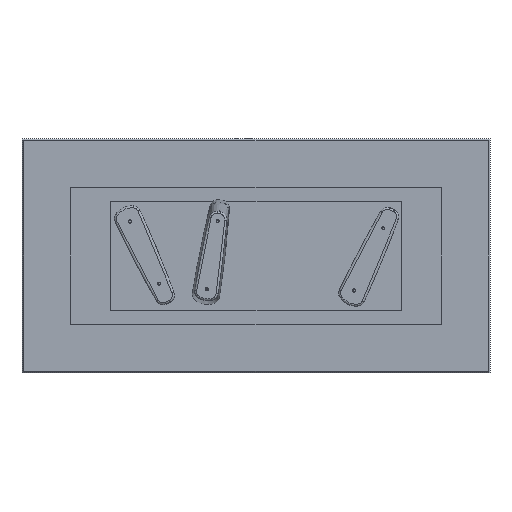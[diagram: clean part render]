
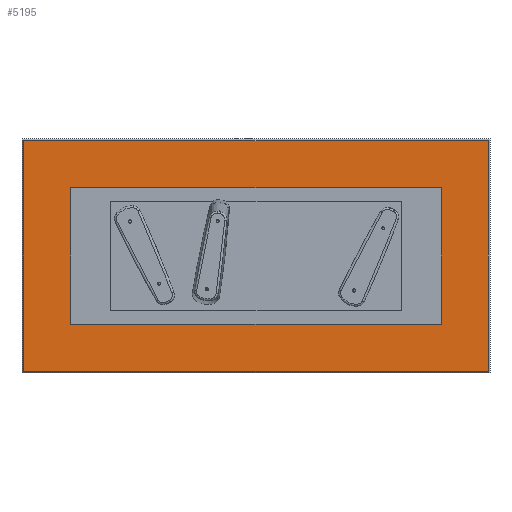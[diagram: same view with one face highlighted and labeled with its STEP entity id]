
A CAD part, front view. The second image highlights one B-rep face of the part: STEP entity #5195.
In plain terms, the highlighted planar face has unit normal (0, -1, 0).
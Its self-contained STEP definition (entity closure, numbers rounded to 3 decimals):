
#31 = LINE ( 'NONE', #6059, #4245 ) ;
#76 = AXIS2_PLACEMENT_3D ( 'NONE', #6013, #4880, #851 ) ;
#261 = ORIENTED_EDGE ( 'NONE', *, *, #4907, .T. ) ;
#393 = EDGE_CURVE ( 'NONE', #4084, #2100, #31, .T. ) ;
#402 = VECTOR ( 'NONE', #5516, 1000. ) ;
#460 = ORIENTED_EDGE ( 'NONE', *, *, #393, .T. ) ;
#560 = LINE ( 'NONE', #2665, #4924 ) ;
#851 = DIRECTION ( 'NONE',  ( 0., 0., -1. ) ) ;
#1207 = CARTESIAN_POINT ( 'NONE',  ( 1190., 65., -590. ) ) ;
#1236 = VECTOR ( 'NONE', #3526, 1000. ) ;
#1337 = CARTESIAN_POINT ( 'NONE',  ( -1200., 65., 590. ) ) ;
#1403 = PLANE ( 'NONE',  #76 ) ;
#1695 = CARTESIAN_POINT ( 'NONE',  ( -1190., 65., -600. ) ) ;
#1899 = CARTESIAN_POINT ( 'NONE',  ( -1190., 65., 590. ) ) ;
#1906 = CARTESIAN_POINT ( 'NONE',  ( -1190., 65., -590. ) ) ;
#2100 = VERTEX_POINT ( 'NONE', #4312 ) ;
#2547 = ORIENTED_EDGE ( 'NONE', *, *, #5983, .T. ) ;
#2568 = DIRECTION ( 'NONE',  ( 1., 0., 0. ) ) ;
#2665 = CARTESIAN_POINT ( 'NONE',  ( 1200., 65., -590. ) ) ;
#2734 = VERTEX_POINT ( 'NONE', #1899 ) ;
#2832 = EDGE_LOOP ( 'NONE', ( #5422, #261, #460, #2547 ) ) ;
#2984 = FACE_OUTER_BOUND ( 'NONE', #2832, .T. ) ;
#3526 = DIRECTION ( 'NONE',  ( 0., 0., -1. ) ) ;
#3569 = LINE ( 'NONE', #1337, #402 ) ;
#3866 = VERTEX_POINT ( 'NONE', #1906 ) ;
#4084 = VERTEX_POINT ( 'NONE', #1207 ) ;
#4143 = EDGE_CURVE ( 'NONE', #2734, #3866, #4559, .T. ) ;
#4245 = VECTOR ( 'NONE', #5051, 1000. ) ;
#4312 = CARTESIAN_POINT ( 'NONE',  ( 1190., 65., 590. ) ) ;
#4559 = LINE ( 'NONE', #1695, #1236 ) ;
#4880 = DIRECTION ( 'NONE',  ( 0., -1., 0. ) ) ;
#4907 = EDGE_CURVE ( 'NONE', #3866, #4084, #560, .T. ) ;
#4924 = VECTOR ( 'NONE', #2568, 1000. ) ;
#5051 = DIRECTION ( 'NONE',  ( 0., 0., 1. ) ) ;
#5195 = ADVANCED_FACE ( 'NONE', ( #2984 ), #1403, .T. ) ;
#5422 = ORIENTED_EDGE ( 'NONE', *, *, #4143, .T. ) ;
#5516 = DIRECTION ( 'NONE',  ( -1., 0., 0. ) ) ;
#5983 = EDGE_CURVE ( 'NONE', #2100, #2734, #3569, .T. ) ;
#6013 = CARTESIAN_POINT ( 'NONE',  ( 0., 65., 0. ) ) ;
#6059 = CARTESIAN_POINT ( 'NONE',  ( 1190., 65., 600. ) ) ;
